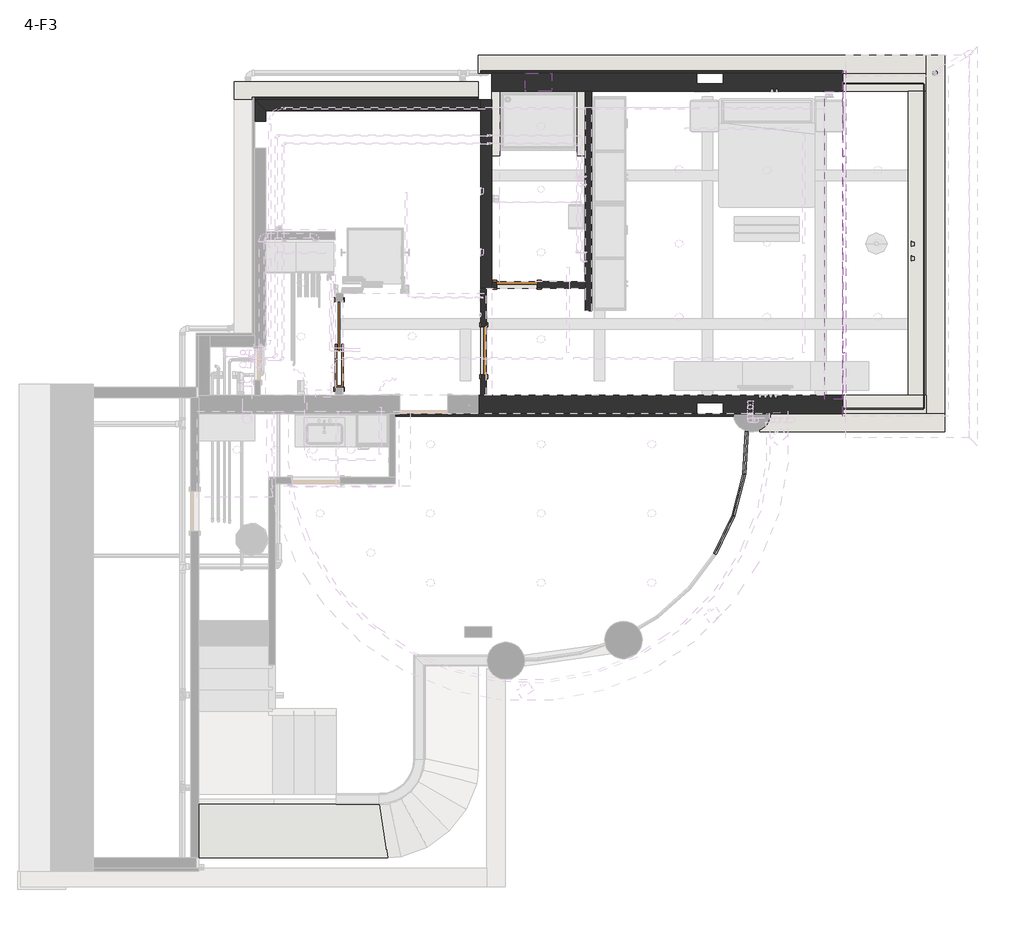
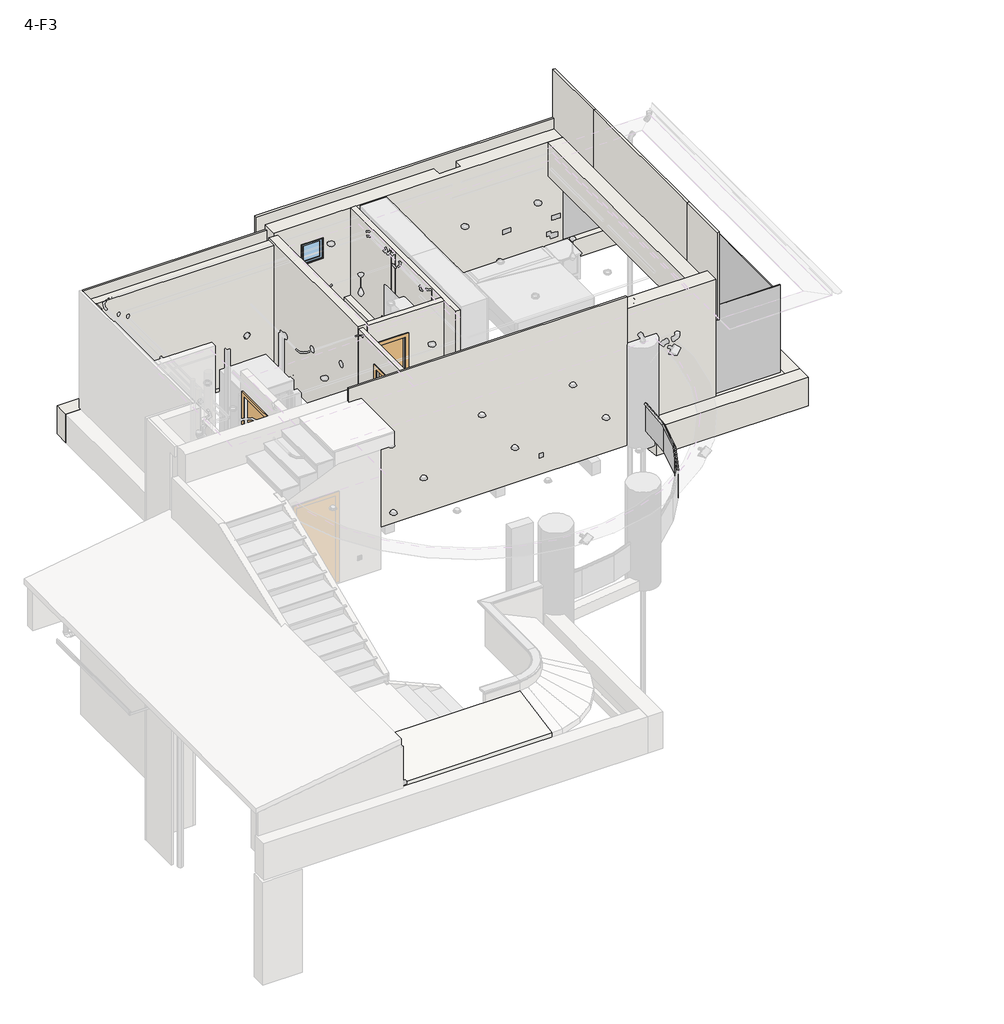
# One storey, part 2 of 11: 25 walls, 6 plates, 3 doors, 3 members, 1 roof, 1 window.
"""IFC4 building model written with IfcOpenShell, lengths in millimetres."""

from ifc_helpers import new_model, si_unit, frame, origin, place, context, project, spatial, polyline, circle_curve, outline, extrude, faceted_brep, transform, mapped, element, save
from ifc_brep_helpers import plane_surface, revolved_surface, advanced_brep
from components import m_single_flush_0800x_2400_dba3e867, m_single_flush_0900_x_2400mm_0b92c57d, sliding_in_door_200x225cm_afe6ee02, circular_mullion_25mm_radius_00b6462a, circular_mullion_25mm_radius_b3aa5af7, system_panel_glazed_32e3a640, system_panel_glazed_cc563820, system_panel_glazed_93393d4e, system_panel_glazed_2966d5fb, system_panel_glazed_078a3d84, m_fixed_0_5x0_5_7bd07c47

model = new_model("IFC4")

# Units and contexts
model_context = context("Model", 3, world=origin())
ifc_project = project(units=[si_unit("LENGTHUNIT", "METRE", prefix="MILLI")], contexts=[model_context])

# Site, building, storey
site = spatial("IfcSite", under=ifc_project)
building = spatial("IfcBuilding", under=site)
storey = spatial("IfcBuildingStorey", under=building, Name="4-F3", Elevation=9900.0)

# Doors
placement = place(None, origin())
m_single_flush_0800x_2400_shape = m_single_flush_0800x_2400_dba3e867(model_context)
element("IfcDoor", 1, ObjectType="M_Single-Flush : 0800x 2400", at=placement, inside=storey, context=model_context, shape_type="MappedRepresentation", body=[
    mapped(m_single_flush_0800x_2400_shape, transform((-152.4765921, 5239.8354313, 9950.0), x_axis=(-1.0, 0.0, 0.0), y_axis=(0.0, -1.0, 0.0), z_axis=(0.0, 0.0, 1.0))),
])
m_single_flush_0900_x_2400mm_shape = m_single_flush_0900_x_2400mm_0b92c57d(model_context)
element("IfcDoor", 2, ObjectType="M_Single-Flush : 0900 x 2400mm", at=placement, inside=storey, context=model_context, shape_type="MappedRepresentation", body=[
    mapped(m_single_flush_0900_x_2400mm_shape, transform((-777.4765921, 4004.4560655, 9950.0), x_axis=(0.0, -1.0, 0.0), y_axis=(1.0, 0.0, 0.0), z_axis=(0.0, 0.0, 1.0))),
])
sliding_in_door_200x225cm_shape = sliding_in_door_200x225cm_afe6ee02(model_context)
element("IfcDoor", 3, ObjectType="Sliding in Door : 200x225cm", at=placement, inside=storey, context=model_context, shape_type="MappedRepresentation", body=[
    mapped(sliding_in_door_200x225cm_shape, transform((-3482.4765921, 4124.4560655, 9900.0), x_axis=(0.0, 1.0, 0.0), y_axis=(-1.0, 0.0, 0.0), z_axis=(0.0, 0.0, 1.0))),
])

# Members
circular_mullion_25mm_radius_shape = circular_mullion_25mm_radius_00b6462a(model_context)
element("IfcMember", 4, ObjectType="Circular Mullion : 25mm Radius", at=placement, inside=storey, context=model_context, shape_type="MappedRepresentation", body=[
    mapped(circular_mullion_25mm_radius_shape, transform((3552.5617588, 200.8336317, 11010.0), x_axis=(0.0, 0.0, 1.0), y_axis=(-0.9008991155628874, 0.43402855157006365, 0.0), z_axis=(-0.43402855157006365, -0.9008991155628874, 0.0))),
])
element("IfcMember", 5, ObjectType="Circular Mullion : 25mm Radius", at=placement, inside=storey, context=model_context, shape_type="MappedRepresentation", body=[
    mapped(circular_mullion_25mm_radius_shape, transform((3899.7846001, 921.5529242, 11010.0), x_axis=(0.0, 0.0, 1.0), y_axis=(-0.9679183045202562, 0.2512651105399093, 0.0), z_axis=(-0.25126511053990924, -0.9679183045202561, 0.0))),
])
circular_mullion_25mm_radius_2_shape = circular_mullion_25mm_radius_b3aa5af7(model_context)
element("IfcMember", 6, ObjectType="Circular Mullion : 25mm Radius", at=placement, inside=storey, context=model_context, shape_type="MappedRepresentation", body=[
    mapped(circular_mullion_25mm_radius_2_shape, transform((4100.7966885, 1695.8875678, 11010.0), x_axis=(0.0, 0.0, 1.0), y_axis=(-0.9982591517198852, 0.05898021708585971, 0.0), z_axis=(-0.05898021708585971, -0.9982591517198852, 0.0))),
])

# Plates
system_panel_glazed_shape = system_panel_glazed_32e3a640(model_context)
element("IfcPlate", 7, ObjectType="System Panel : Glazed", at=placement, inside=storey, context=model_context, shape_type="MappedRepresentation", body=[
    mapped(system_panel_glazed_shape, transform((4124.3887755, 2095.1912305, 10330.0), x_axis=(-0.05898021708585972, -0.9982591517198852, 0.0), y_axis=(0.9982591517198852, -0.05898021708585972, 0.0), z_axis=(0.0, 0.0, 1.0))),
])
system_panel_glazed_2_shape = system_panel_glazed_cc563820(model_context)
element("IfcPlate", 8, ObjectType="System Panel : Glazed", at=placement, inside=storey, context=model_context, shape_type="MappedRepresentation", body=[
    mapped(system_panel_glazed_2_shape, transform((4000.2906443, 1308.720246, 10330.0), x_axis=(-0.251265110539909, -0.9679183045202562, 0.0), y_axis=(0.9679183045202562, -0.251265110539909, 0.0), z_axis=(0.0, 0.0, 1.0))),
])
element("IfcPlate", 9, ObjectType="System Panel : Glazed", at=placement, inside=storey, context=model_context, shape_type="MappedRepresentation", body=[
    mapped(system_panel_glazed_2_shape, transform((3726.1731795, 561.1932779, 10330.0), x_axis=(-0.43402855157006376, -0.9008991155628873, 0.0), y_axis=(0.9008991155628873, -0.43402855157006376, 0.0), z_axis=(0.0, 0.0, 1.0))),
])
system_panel_glazed_3_shape = system_panel_glazed_93393d4e(model_context)
element("IfcPlate", 10, ObjectType="System Panel : Glazed", at=placement, inside=storey, context=model_context, shape_type="MappedRepresentation", body=[
    mapped(system_panel_glazed_3_shape, transform((7455.5234079, 5965.2764926, 10330.0), x_axis=(0.0, -1.0, 0.0), y_axis=(1.0, 0.0, 0.0), z_axis=(0.0, 0.0, 1.0))),
])
system_panel_glazed_4_shape = system_panel_glazed_2966d5fb(model_context)
element("IfcPlate", 11, ObjectType="System Panel : Glazed", at=placement, inside=storey, context=model_context, shape_type="MappedRepresentation", body=[
    mapped(system_panel_glazed_4_shape, transform((6705.5234079, 9000.0, 10330.0), x_axis=(1.0, 0.0, 0.0), y_axis=(0.0, 1.0, 0.0), z_axis=(0.0, 0.0, 1.0))),
])
system_panel_glazed_5_shape = system_panel_glazed_078a3d84(model_context)
element("IfcPlate", 12, ObjectType="System Panel : Glazed", at=placement, inside=storey, context=model_context, shape_type="MappedRepresentation", body=[
    mapped(system_panel_glazed_5_shape, transform((6705.5234079, 2930.5529852, 10330.0), x_axis=(-1.0, 0.0, 0.0), y_axis=(0.0, -1.0, 0.0), z_axis=(0.0, 0.0, 1.0))),
])

# Roof
element("IfcRoof", 13, ObjectType="Generic - 125mm", at=placement, inside=storey, context=model_context, shape_type="Brep", body=[
    faceted_brep([(-6157.4765921, -4485.2669739, 10588.7992354), (-2724.0785276, -4485.2669739, 10588.7992354), (-2574.7606331, -5479.8876439, 10125.0), (-6157.4765921, -5479.8876439, 10125.0), (-2724.0785276, -4485.2669739, 10726.7214753), (-6157.4765921, -4485.2669739, 10726.7214753), (-6157.4765921, -5479.8876439, 10262.9222399), (-2574.7606331, -5479.8876439, 10262.9222399)], [[[0, 1, 2, 3]], [[4, 5, 6, 7]], [[2, 7, 6, 3]], [[5, 4, 1, 0]], [[6, 5, 0, 3]], [[4, 7, 2, 1]]]),
])

# Walls
element("IfcWall", 14, ObjectType="34cm", at=placement, inside=storey, context=model_context, shape_type="Brep", body=[
    faceted_brep([(-627.4765921, 8861.6620874, 9900.0), (-477.4765921, 8861.6620874, 9900.0), (972.5234079, 8861.6620874, 9900.0), (1122.5234079, 8861.6620874, 9900.0), (5947.8774898, 8861.6620874, 9900.0), (5947.8774898, 8861.6620874, 12100.0), (5947.8774898, 8861.6620874, 12900.0), (5607.8774898, 8861.6620874, 12900.0), (-627.4765921, 8861.6620874, 12900.0), (-627.4765921, 8861.6620874, 10800.0), (497.5234079, 8861.6620874, 12400.0), (497.5234079, 8861.6620874, 11900.0), (-2.4765921, 8861.6620874, 11900.0), (-2.4765921, 8861.6620874, 12400.0), (3382.5234079, 8861.6620874, 10670.0), (3382.5234079, 8861.6620874, 10730.0), (3442.5234079, 8861.6620874, 10730.0), (3442.5234079, 8861.6620874, 10670.0), (3282.5234079, 8861.6620874, 10670.0), (3282.5234079, 8861.6620874, 10730.0), (3342.5234079, 8861.6620874, 10730.0), (3342.5234079, 8861.6620874, 10670.0), (5592.87749, 8861.6620874, 10670.0), (5592.87749, 8861.6620874, 10730.0), (5652.87749, 8861.6620874, 10730.0), (5652.87749, 8861.6620874, 10670.0), (3182.5234079, 8861.6620874, 10670.0), (3182.5234079, 8861.6620874, 10730.0), (3242.5234079, 8861.6620874, 10730.0), (3242.5234079, 8861.6620874, 10670.0), (4597.87749, 8861.6620874, 10320.0), (4597.87749, 8861.6620874, 10380.0), (4657.87749, 8861.6620874, 10380.0), (4657.87749, 8861.6620874, 10320.0), (4592.5234079, 8861.6620874, 11070.0), (4592.5234079, 8861.6620874, 11130.0), (4652.5234079, 8861.6620874, 11130.0), (4652.5234079, 8861.6620874, 11070.0), (4677.87749, 8861.6620874, 11070.0), (4677.87749, 8861.6620874, 11130.0), (4737.87749, 8861.6620874, 11130.0), (4737.87749, 8861.6620874, 11070.0), (4682.87749, 8861.6620874, 10320.0), (4682.87749, 8861.6620874, 10380.0), (4742.87749, 8861.6620874, 10380.0), (4742.87749, 8861.6620874, 10320.0), (5708.0158093, 8861.6620874, 11020.0), (5708.0158093, 8861.6620874, 11080.0), (5768.0158093, 8861.6620874, 11080.0), (5768.0158093, 8861.6620874, 11020.0), (5808.0158093, 8861.6620874, 11020.0), (5808.0158093, 8861.6620874, 11080.0), (5868.0158093, 8861.6620874, 11080.0), (5868.0158093, 8861.6620874, 11020.0), (-627.4765921, 9201.6620874, 9900.0), (-627.4765921, 9201.6620874, 12900.0), (3212.5234079, 9201.6620874, 12900.0), (3212.5234079, 9201.6620874, 9950.0), (3212.5234079, 9201.6620874, 9900.0), (497.5234079, 9201.6620874, 11900.0), (497.5234079, 9201.6620874, 12400.0), (-2.4765921, 9201.6620874, 12400.0), (-2.4765921, 9201.6620874, 11900.0), (5947.8774898, 9201.6620874, 12900.0), (5947.8774898, 9201.6620874, 10330.0), (5947.8774898, 9201.6620874, 9900.0), (3712.5234079, 9201.6620874, 9900.0), (3712.5234079, 9201.6620874, 9950.0), (3712.5234079, 9201.6620874, 12900.0), (3212.5234079, 9001.6620874, 9900.0), (3712.5234079, 9001.6620874, 9900.0), (3712.5234079, 9001.6620874, 9950.0), (3712.5234079, 9001.6620874, 12900.0), (3212.5234079, 9001.6620874, 9950.0), (3212.5234079, 9001.6620874, 12900.0), (3382.5234079, 8911.6620874, 10670.0), (3442.5234079, 8911.6620874, 10670.0), (3442.5234079, 8911.6620874, 10730.0), (3382.5234079, 8911.6620874, 10730.0), (3282.5234079, 8911.6620874, 10670.0), (3342.5234079, 8911.6620874, 10670.0), (3342.5234079, 8911.6620874, 10730.0), (3282.5234079, 8911.6620874, 10730.0), (5592.87749, 8911.6620874, 10670.0), (5652.87749, 8911.6620874, 10670.0), (5652.87749, 8911.6620874, 10730.0), (5592.87749, 8911.6620874, 10730.0), (3182.5234079, 8911.6620874, 10670.0), (3242.5234079, 8911.6620874, 10670.0), (3242.5234079, 8911.6620874, 10730.0), (3182.5234079, 8911.6620874, 10730.0), (4597.87749, 8911.6620874, 10320.0), (4657.87749, 8911.6620874, 10320.0), (4657.87749, 8911.6620874, 10380.0), (4597.87749, 8911.6620874, 10380.0), (4592.5234079, 8911.6620874, 11070.0), (4652.5234079, 8911.6620874, 11070.0), (4652.5234079, 8911.6620874, 11130.0), (4592.5234079, 8911.6620874, 11130.0), (4677.87749, 8911.6620874, 11070.0), (4737.87749, 8911.6620874, 11070.0), (4737.87749, 8911.6620874, 11130.0), (4677.87749, 8911.6620874, 11130.0), (4682.87749, 8911.6620874, 10320.0), (4742.87749, 8911.6620874, 10320.0), (4742.87749, 8911.6620874, 10380.0), (4682.87749, 8911.6620874, 10380.0), (5708.0158093, 8911.6620874, 11020.0), (5768.0158093, 8911.6620874, 11020.0), (5768.0158093, 8911.6620874, 11080.0), (5708.0158093, 8911.6620874, 11080.0), (5808.0158093, 8911.6620874, 11020.0), (5868.0158093, 8911.6620874, 11020.0), (5868.0158093, 8911.6620874, 11080.0), (5808.0158093, 8911.6620874, 11080.0)], [[[0, 1, 2, 3, 4, 5, 6, 7, 8, 9], [10, 11, 12, 13], [14, 15, 16, 17], [18, 19, 20, 21], [22, 23, 24, 25], [26, 27, 28, 29], [30, 31, 32, 33], [34, 35, 36, 37], [38, 39, 40, 41], [42, 43, 44, 45], [46, 47, 48, 49], [50, 51, 52, 53]], [[54, 55, 56, 57, 58], [59, 60, 61, 62]], [[63, 64, 65, 66, 67, 68]], [[4, 3, 2, 1, 0, 54, 58, 69, 70, 66, 65]], [[70, 71, 72, 68, 67, 66]], [[72, 71, 70, 69, 73, 74]], [[74, 73, 69, 58, 57, 56]], [[8, 7, 6, 63, 68, 72, 74, 56, 55]], [[63, 6, 5, 4, 65, 64]], [[0, 9, 8, 55, 54]], [[60, 59, 11, 10]], [[61, 60, 10, 13]], [[62, 61, 13, 12]], [[59, 62, 12, 11]], [[75, 76, 77, 78]], [[75, 78, 15, 14]], [[78, 77, 16, 15]], [[77, 76, 17, 16]], [[76, 75, 14, 17]], [[79, 80, 81, 82]], [[79, 82, 19, 18]], [[82, 81, 20, 19]], [[81, 80, 21, 20]], [[80, 79, 18, 21]], [[83, 84, 85, 86]], [[83, 86, 23, 22]], [[86, 85, 24, 23]], [[85, 84, 25, 24]], [[84, 83, 22, 25]], [[87, 88, 89, 90]], [[87, 90, 27, 26]], [[90, 89, 28, 27]], [[89, 88, 29, 28]], [[88, 87, 26, 29]], [[91, 92, 93, 94]], [[91, 94, 31, 30]], [[94, 93, 32, 31]], [[93, 92, 33, 32]], [[92, 91, 30, 33]], [[95, 96, 97, 98]], [[95, 98, 35, 34]], [[98, 97, 36, 35]], [[97, 96, 37, 36]], [[96, 95, 34, 37]], [[99, 100, 101, 102]], [[99, 102, 39, 38]], [[102, 101, 40, 39]], [[101, 100, 41, 40]], [[100, 99, 38, 41]], [[103, 104, 105, 106]], [[103, 106, 43, 42]], [[106, 105, 44, 43]], [[105, 104, 45, 44]], [[104, 103, 42, 45]], [[107, 108, 109, 110]], [[107, 110, 47, 46]], [[110, 109, 48, 47]], [[109, 108, 49, 48]], [[108, 107, 46, 49]], [[111, 112, 113, 114]], [[111, 114, 51, 50]], [[114, 113, 52, 51]], [[113, 112, 53, 52]], [[112, 111, 50, 53]]]),
])
element("IfcWall", 15, ObjectType="34cm", at=placement, inside=storey, context=model_context, shape_type="Brep", body=[
    faceted_brep([(5947.8774898, 3170.6486583, 9900.0), (-867.4765921, 3170.6486583, 9900.0), (-867.4765921, 3170.6486583, 13150.0), (5947.8774898, 3170.6486583, 13150.0), (4722.5234079, 3170.6486583, 11070.0), (4722.5234079, 3170.6486583, 11130.0), (4662.5234079, 3170.6486583, 11130.0), (4662.5234079, 3170.6486583, 11070.0), (4628.1215014, 3170.6486583, 11070.0), (4628.1215014, 3170.6486583, 11130.0), (4568.1215014, 3170.6486583, 11130.0), (4568.1215014, 3170.6486583, 11070.0), (4528.1215014, 3170.6486583, 11070.0), (4528.1215014, 3170.6486583, 11130.0), (4468.1215014, 3170.6486583, 11130.0), (4468.1215014, 3170.6486583, 11070.0), (4428.1215014, 3170.6486583, 11070.0), (4428.1215014, 3170.6486583, 11130.0), (4368.1215014, 3170.6486583, 11130.0), (4368.1215014, 3170.6486583, 11070.0), (1376.1734079, 3170.6486583, 10320.0), (1376.1734079, 3170.6486583, 10380.0), (1316.1734079, 3170.6486583, 10380.0), (1316.1734079, 3170.6486583, 10320.0), (-867.4765921, 2830.6486583, 13150.0), (-867.4765921, 2830.6486583, 9900.0), (3212.5234079, 2830.6486583, 9900.0), (3212.5234079, 2830.6486583, 13150.0), (5947.8774898, 2830.6486583, 9900.0), (5947.8774898, 2830.6486583, 13150.0), (3712.5234079, 2830.6486583, 13150.0), (3712.5234079, 2830.6486583, 9900.0), (3898.1215014, 2830.6486583, 9900.0), (4722.5234079, 3120.6486583, 11070.0), (4662.5234079, 3120.6486583, 11070.0), (4662.5234079, 3120.6486583, 11130.0), (4722.5234079, 3120.6486583, 11130.0), (4628.1215014, 3120.6486583, 11070.0), (4568.1215014, 3120.6486583, 11070.0), (4568.1215014, 3120.6486583, 11130.0), (4628.1215014, 3120.6486583, 11130.0), (4528.1215014, 3120.6486583, 11070.0), (4468.1215014, 3120.6486583, 11070.0), (4468.1215014, 3120.6486583, 11130.0), (4528.1215014, 3120.6486583, 11130.0), (4428.1215014, 3120.6486583, 11070.0), (4368.1215014, 3120.6486583, 11070.0), (4368.1215014, 3120.6486583, 11130.0), (4428.1215014, 3120.6486583, 11130.0), (1376.1734079, 3120.6486583, 10320.0), (1316.1734079, 3120.6486583, 10320.0), (1316.1734079, 3120.6486583, 10380.0), (1376.1734079, 3120.6486583, 10380.0), (3712.5234079, 3030.6486583, 9900.0), (3212.5234079, 3030.6486583, 9900.0), (3212.5234079, 2950.6486583, 13150.0), (3212.5234079, 3030.6486583, 13150.0), (3712.5234079, 3030.6486583, 13150.0), (3712.5234079, 2950.6486583, 13150.0), (3712.5234079, 3030.6486583, 12900.0), (3212.5234079, 3030.6486583, 12900.0)], [[[0, 1, 2, 3], [4, 5, 6, 7], [8, 9, 10, 11], [12, 13, 14, 15], [16, 17, 18, 19], [20, 21, 22, 23]], [[24, 25, 26, 27]], [[28, 29, 30, 31, 32]], [[33, 34, 35, 36]], [[33, 36, 5, 4]], [[36, 35, 6, 5]], [[35, 34, 7, 6]], [[34, 33, 4, 7]], [[37, 38, 39, 40]], [[37, 40, 9, 8]], [[40, 39, 10, 9]], [[39, 38, 11, 10]], [[38, 37, 8, 11]], [[41, 42, 43, 44]], [[41, 44, 13, 12]], [[44, 43, 14, 13]], [[43, 42, 15, 14]], [[42, 41, 12, 15]], [[45, 46, 47, 48]], [[45, 48, 17, 16]], [[48, 47, 18, 17]], [[47, 46, 19, 18]], [[46, 45, 16, 19]], [[49, 50, 51, 52]], [[49, 52, 21, 20]], [[52, 51, 22, 21]], [[51, 50, 23, 22]], [[50, 49, 20, 23]], [[1, 0, 28, 32, 31, 53, 54, 26, 25]], [[2, 1, 25, 24]], [[3, 2, 24, 27, 55, 56, 57, 58, 30, 29]], [[0, 3, 29, 28]], [[57, 59, 53, 31, 30, 58]], [[54, 60, 56, 55, 27, 26]], [[56, 60, 54, 53, 59, 57]]]),
])
element("IfcWall", 16, ObjectType="34cm", at=placement, inside=storey, context=model_context, shape_type="SweptSolid", body=[
    extrude(outline(polyline([(5607.8774898, 3096.4863231), (5607.8774898, 8861.6620874), (5947.8774898, 8861.6620874), (5947.8774898, 3096.4863231), (5607.8774898, 3096.4863231)])), frame((0.0, 0.0, 12100.0), z_axis=(0.0, 0.0, 1.0), x_axis=(1.0, 0.0, 0.0)), (0.0, 0.0, 1.0), 800.0),
])
element("IfcWall", 17, ObjectType="34cm", at=placement, inside=storey, context=model_context, shape_type="Brep", body=[
    faceted_brep([(7512.5234079, 3170.6486583, 9900.0), (7172.5234079, 3170.6486583, 9900.0), (5592.5234079, 3170.6486583, 9900.0), (5592.5234079, 3170.6486583, 10330.0), (7172.5234079, 3170.6486583, 10330.0), (7512.5234079, 3170.6486583, 10330.0), (7512.5234079, 2830.6486583, 9900.0), (7512.5234079, 2830.6486583, 10330.0), (5592.5234079, 2830.6486583, 10330.0), (5592.5234079, 2830.6486583, 9900.0)], [[[0, 1, 2, 3, 4, 5]], [[6, 7, 8, 9]], [[2, 1, 0, 6, 9]], [[3, 2, 9, 8]], [[5, 4, 3, 8, 7]], [[0, 5, 7, 6]]]),
])
element("IfcWall", 18, ObjectType="34cm", at=placement, inside=storey, context=model_context, shape_type="Brep", body=[
    faceted_brep([(5947.8774898, 8861.6620874, 9900.0), (7172.5234079, 8861.6620874, 9900.0), (7512.5234079, 8861.6620874, 9900.0), (7512.5234079, 8861.6620874, 10330.0), (7172.5234079, 8861.6620874, 10330.0), (5947.8774898, 8861.6620874, 10330.0), (5947.8774898, 9201.6620874, 9900.0), (5947.8774898, 9201.6620874, 10330.0), (7512.5234079, 9201.6620874, 10330.0), (7512.5234079, 9201.6620874, 9900.0)], [[[0, 1, 2, 3, 4, 5]], [[6, 7, 8, 9]], [[2, 1, 0, 6, 9]], [[5, 4, 3, 8, 7]], [[0, 5, 7, 6]], [[3, 2, 9, 8]]]),
])
element("IfcWall", 19, ObjectType="34cm", at=placement, inside=storey, context=model_context, shape_type="SweptSolid", body=[
    extrude(outline(polyline([(7172.5234079, 3170.6486583), (7172.5234079, 8861.6620874), (7512.5234079, 8861.6620874), (7512.5234079, 3170.6486583), (7172.5234079, 3170.6486583)])), frame((0.0, 0.0, 9900.0), z_axis=(0.0, 0.0, 1.0), x_axis=(1.0, 0.0, 0.0)), (0.0, 0.0, 1.0), 430.0),
])
element("IfcWall", 20, ObjectType="Generic - 200mm", at=placement, inside=storey, context=model_context, shape_type="AdvancedBrep", body=[
    advanced_brep(
    [(-827.4765921, 8701.6620874, 9900.0), (-5057.4765921, 8701.6620874, 9900.0), (-5057.4765921, 8701.6620874, 12900.0), (-827.4765921, 8701.6620874, 12900.0), (-4857.4765921, 8501.6620874, 9900.0), (-827.4765921, 8501.6620874, 9900.0), (-827.4765921, 8501.6620874, 12900.0), (-4857.4765921, 8501.6620874, 12900.0), (-1387.4765921, 8501.6620874, 10944.7368421), (-1497.4765921, 8501.6620874, 10944.7368421), (-1497.4765921, 8539.7620874, 10944.7368421), (-1387.4765921, 8539.7620874, 10944.7368421)],
    [
        (0, 1),
        (1, 2),
        (2, 3),
        (3, 0),
        (4, 5),
        (5, 6),
        (6, 7),
        (7, 4),
        (8, 9, circle_curve(frame((-1442.4765921, 8501.6620874, 10944.7368421), z_axis=(0.0, 1.0, 0.0), x_axis=(1.0, 0.0, 0.0)), 55.0)),
        (9, 8, circle_curve(frame((-1442.4765921, 8501.6620874, 10944.7368421), z_axis=(0.0, 1.0, 0.0), x_axis=(1.0, 0.0, 0.0)), 55.0)),
        (0, 5),
        (4, 1),
        (7, 2),
        (6, 3),
        (10, 11, circle_curve(frame((-1442.4765921, 8539.7620874, 10944.7368421), z_axis=(0.0, -1.0, 0.0), x_axis=(1.0, 0.0, 0.0)), 55.0)),
        (11, 10, circle_curve(frame((-1442.4765921, 8539.7620874, 10944.7368421), z_axis=(0.0, -1.0, 0.0), x_axis=(1.0, 0.0, 0.0)), 55.0)),
        (10, 9),
        (8, 11),
    ],
    [
        plane_surface(frame((-262.1225101, 8701.6620874, 9900.0), z_axis=(0.0, 1.0, 0.0), x_axis=(-1.0, 0.0, 0.0))),
        plane_surface(frame((-262.1225101, 8501.6620874, 9900.0), z_axis=(0.0, -1.0, 0.0), x_axis=(1.0, 0.0, 0.0))),
        plane_surface(frame((-727.4765921, 8701.6620874, 9900.0), z_axis=(0.0, 0.0, -1.0), x_axis=(0.0, -1.0, 0.0))),
        plane_surface(frame((-5057.4765921, 8701.6620874, 9900.0), z_axis=(-0.7071067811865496, -0.7071067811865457, 0.0), x_axis=(0.7071067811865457, -0.7071067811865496, 0.0))),
        plane_surface(frame((-5057.4765921, 8301.6620874, 12900.0), z_axis=(0.0, 0.0, 1.0), x_axis=(0.0, 1.0, 0.0))),
        plane_surface(frame((-1387.4765921, 8539.7620874, 10944.7368421), z_axis=(0.0, -1.0, 0.0), x_axis=(0.0, 0.0, -1.0))),
        revolved_surface(polyline([(-1387.4765921, 8501.6620874, 10944.7368421), (-1387.4765921, 8539.7620874, 10944.7368421)]), (-1442.4765921, 8539.7620874, 10944.7368421), (0.0, -1.0, 0.0)),
        plane_surface(frame((-827.4765921, 8101.6620874, 9900.0), z_axis=(1.0, 0.0, 0.0), x_axis=(0.0, -1.0, 0.0))),
    ],
    [
        (0, [[1, 2, 3, 4]]),
        (1, [[5, 6, 7, 8], [9, 10]]),
        (2, [[-1, 11, -5, 12]]),
        (3, [[-2, -12, -8, 13]]),
        (4, [[-3, -13, -7, 14]]),
        (5, [[15, 16]]),
        (6, [[-15, 17, -9, 18]]),
        (6, [[-16, -18, -10, -17]]),
        (7, [[-4, -14, -6, -11]]),
    ],
),
])
element("IfcWall", 21, ObjectType="Generic - 200mm", at=placement, inside=storey, context=model_context, shape_type="SweptSolid", body=[
    extrude(outline(polyline([(-5057.4765921, 8301.6620874), (-5057.4765921, 8701.6620874), (-4857.4765921, 8501.6620874), (-4857.4765921, 8301.6620874), (-5057.4765921, 8301.6620874)])), frame((0.0, 0.0, 9900.0), z_axis=(0.0, 0.0, 1.0), x_axis=(1.0, 0.0, 0.0)), (0.0, 0.0, 1.0), 3000.0),
])
element("IfcWall", 22, ObjectType="Generic - 200mm", at=placement, inside=storey, context=model_context, shape_type="Brep", body=[
    faceted_brep([(-827.4765921, 8701.6620874, 9900.0), (-827.4765921, 8501.6620874, 9900.0), (-827.4765921, 5179.8354313, 9900.0), (-827.4765921, 5179.8354313, 12900.0), (-827.4765921, 5179.8354313, 12950.0), (-827.4765921, 8701.6620874, 12950.0), (-827.4765921, 8701.6620874, 12900.0), (-627.4765921, 8701.6620874, 9900.0), (-627.4765921, 8701.6620874, 12950.0), (-627.4765921, 5179.8354313, 12950.0), (-627.4765921, 5179.8354313, 12900.0), (-627.4765921, 5179.8354313, 9900.0), (-627.4765921, 5299.8354313, 9900.0), (-727.4765921, 5179.8354313, 9900.0)], [[[0, 1, 2, 3, 4, 5, 6]], [[7, 8, 9, 10, 11, 12]], [[2, 1, 0, 7, 12, 11, 13]], [[5, 4, 9, 8]], [[0, 6, 5, 8, 7]], [[4, 3, 2, 13, 11, 10, 9]]]),
])
element("IfcWall", 23, ObjectType="Generic -10", at=placement, inside=storey, context=model_context, shape_type="Brep", body=[
    faceted_brep([(-827.4765921, 5179.8354313, 9900.0), (-827.4765921, 3170.6486583, 9900.0), (-827.4765921, 3170.6486583, 12900.0), (-827.4765921, 5179.8354313, 12900.0), (-827.4765921, 3554.4560655, 9950.0), (-827.4765921, 4454.4560655, 9950.0), (-827.4765921, 4454.4560655, 12375.0), (-827.4765921, 3554.4560655, 12375.0), (-727.4765921, 3170.6486583, 9900.0), (-727.4765921, 5179.8354313, 9900.0), (-727.4765921, 5179.8354313, 12900.0), (-727.4765921, 3170.6486583, 12900.0), (-727.4765921, 4499.8354313, 11080.0), (-727.4765921, 4499.8354313, 11020.0), (-727.4765921, 4454.4560655, 11020.0), (-727.4765921, 4454.4560655, 9950.0), (-727.4765921, 3554.4560655, 9950.0), (-727.4765921, 3554.4560655, 12375.0), (-727.4765921, 4454.4560655, 12375.0), (-727.4765921, 4454.4560655, 11080.0), (-727.4765921, 4509.8354313, 11020.0), (-727.4765921, 4509.8354313, 11080.0), (-727.4765921, 4569.8354313, 11080.0), (-727.4765921, 4569.8354313, 11020.0), (-777.4765921, 4499.8354313, 11020.0), (-777.4765921, 4499.8354313, 11080.0), (-777.4765921, 4454.4560655, 11080.0), (-777.4765921, 4454.4560655, 11020.0), (-777.4765921, 4509.8354313, 11020.0), (-777.4765921, 4569.8354313, 11020.0), (-777.4765921, 4569.8354313, 11080.0), (-777.4765921, 4509.8354313, 11080.0)], [[[0, 1, 2, 3], [4, 5, 6, 7]], [[8, 9, 10, 11], [12, 13, 14, 15, 16, 17, 18, 19], [20, 21, 22, 23]], [[1, 0, 9, 8]], [[2, 1, 8, 11]], [[3, 2, 11, 10]], [[24, 25, 26, 27]], [[25, 12, 19, 26]], [[25, 24, 13, 12]], [[13, 24, 27, 14]], [[28, 29, 30, 31]], [[28, 31, 21, 20]], [[31, 30, 22, 21]], [[30, 29, 23, 22]], [[29, 28, 20, 23]], [[15, 5, 4, 16]], [[16, 4, 7, 17]], [[17, 7, 6, 18]], [[5, 15, 14, 27, 26, 19, 18, 6]], [[0, 3, 10, 9]]]),
])
element("IfcWall", 24, ObjectType="Generic -120mm", at=placement, inside=storey, context=model_context, shape_type="Brep", body=[
    faceted_brep([(-627.4765921, 5179.8354313, 9900.0), (1122.5234079, 5179.8354313, 9900.0), (1122.5234079, 5179.8354313, 12900.0), (-627.4765921, 5179.8354313, 12900.0), (222.5234079, 5179.8354313, 9950.0), (-527.4765921, 5179.8354313, 9950.0), (-527.4765921, 5179.8354313, 12350.0), (222.5234079, 5179.8354313, 12350.0), (1122.5234079, 5299.8354313, 9900.0), (-627.4765921, 5299.8354313, 9900.0), (-627.4765921, 5299.8354313, 12900.0), (1122.5234079, 5299.8354313, 12900.0), (382.5234079, 5299.8354313, 11020.0), (382.5234079, 5299.8354313, 11080.0), (322.5234079, 5299.8354313, 11080.0), (322.5234079, 5299.8354313, 11020.0), (-527.4765921, 5299.8354313, 9950.0), (222.5234079, 5299.8354313, 9950.0), (222.5234079, 5299.8354313, 12350.0), (-527.4765921, 5299.8354313, 12350.0), (382.5234079, 5249.8354313, 11020.0), (322.5234079, 5249.8354313, 11020.0), (322.5234079, 5249.8354313, 11080.0), (382.5234079, 5249.8354313, 11080.0)], [[[0, 1, 2, 3], [4, 5, 6, 7]], [[8, 9, 10, 11], [12, 13, 14, 15], [16, 17, 18, 19]], [[1, 0, 9, 8]], [[3, 2, 11, 10]], [[2, 1, 8, 11]], [[20, 21, 22, 23]], [[20, 23, 13, 12]], [[23, 22, 14, 13]], [[22, 21, 15, 14]], [[21, 20, 12, 15]], [[5, 4, 17, 16]], [[6, 5, 16, 19]], [[7, 6, 19, 18]], [[4, 7, 18, 17]], [[0, 3, 10, 9]]]),
])
element("IfcWall", 25, ObjectType="Generic -120mm", at=placement, inside=storey, context=model_context, shape_type="Brep", body=[
    faceted_brep([(1242.5234079, 4751.6620874, 9900.0), (1242.5234079, 8861.6620874, 9900.0), (1242.5234079, 8861.6620874, 12900.0), (1242.5234079, 4751.6620874, 12900.0), (1122.5234079, 8861.6620874, 9900.0), (1122.5234079, 5299.8354313, 9900.0), (1122.5234079, 5179.8354313, 9900.0), (1122.5234079, 4751.6620874, 9900.0), (1122.5234079, 4751.6620874, 12900.0), (1122.5234079, 5179.8354313, 12900.0), (1122.5234079, 5299.8354313, 12900.0), (1122.5234079, 8861.6620874, 12900.0), (1122.5234079, 5424.0420953, 10972.6), (1122.5234079, 5424.0420953, 11032.6), (1122.5234079, 5364.0420953, 11032.6), (1122.5234079, 5364.0420953, 10972.6), (1122.5234079, 7612.5716599, 10972.6), (1122.5234079, 7612.5716599, 11032.6), (1122.5234079, 7552.5716599, 11032.6), (1122.5234079, 7552.5716599, 10972.6), (1172.5234079, 5424.0420953, 10972.6), (1172.5234079, 5364.0420953, 10972.6), (1172.5234079, 5364.0420953, 11032.6), (1172.5234079, 5424.0420953, 11032.6), (1172.5234079, 7612.5716599, 10972.6), (1172.5234079, 7552.5716599, 10972.6), (1172.5234079, 7552.5716599, 11032.6), (1172.5234079, 7612.5716599, 11032.6)], [[[0, 1, 2, 3]], [[4, 5, 6, 7, 8, 9, 10, 11], [12, 13, 14, 15], [16, 17, 18, 19]], [[1, 0, 7, 6, 5, 4]], [[2, 1, 4, 11]], [[3, 2, 11, 10, 9, 8]], [[0, 3, 8, 7]], [[20, 21, 22, 23]], [[20, 23, 13, 12]], [[23, 22, 14, 13]], [[22, 21, 15, 14]], [[21, 20, 12, 15]], [[24, 25, 26, 27]], [[24, 27, 17, 16]], [[27, 26, 18, 17]], [[26, 25, 19, 18]], [[25, 24, 16, 19]]]),
])
element("IfcWall", 26, ObjectType="Generic -150mm", at=placement, inside=storey, context=model_context, shape_type="SweptSolid", body=[
    extrude(outline(polyline([(-627.4765921, 7661.6620874), (-627.4765921, 8861.6620874), (-477.4765921, 8861.6620874), (-477.4765921, 7661.6620874), (-627.4765921, 7661.6620874)])), frame((0.0, 0.0, 9900.0), z_axis=(0.0, 0.0, 1.0), x_axis=(1.0, 0.0, 0.0)), (0.0, 0.0, 1.0), 900.0),
])
element("IfcWall", 27, ObjectType="Generic -150mm", at=placement, inside=storey, context=model_context, shape_type="SweptSolid", body=[
    extrude(outline(polyline([(972.5234079, 7661.6620874), (972.5234079, 8861.6620874), (1122.5234079, 8861.6620874), (1122.5234079, 7661.6620874), (972.5234079, 7661.6620874)])), frame((0.0, 0.0, 9900.0), z_axis=(0.0, 0.0, 1.0), x_axis=(1.0, 0.0, 0.0)), (0.0, 0.0, 1.0), 900.0),
])
element("IfcWall", 28, ObjectType="Wall1", at=placement, inside=storey, context=model_context, shape_type="Brep", body=[
    faceted_brep([(7512.5234079, 9541.6620874, 9650.0), (7512.5234079, 9201.6620874, 9650.0), (7512.5234079, 2830.6486583, 9650.0), (7512.5234079, 2830.6486583, 9950.0), (7512.5234079, 2830.6486583, 10330.0), (7512.5234079, 9201.6620874, 10330.0), (7512.5234079, 9541.6620874, 10330.0), (7852.5234079, 9541.6620874, 9650.0), (7852.5234079, 9541.6620874, 10330.0), (7852.5234079, 2830.6486583, 10330.0), (7852.5234079, 2830.6486583, 9650.0)], [[[0, 1, 2, 3, 4, 5, 6]], [[7, 8, 9, 10]], [[2, 1, 0, 7, 10]], [[6, 5, 4, 9, 8]], [[0, 6, 8, 7]], [[4, 3, 2, 10, 9]]]),
])
element("IfcWall", 29, ObjectType="Wall1", at=placement, inside=storey, context=model_context, shape_type="AdvancedBrep", body=[
    advanced_brep(
    [(7852.5234079, 2830.6486583, 9650.0), (7512.5234079, 2830.6486583, 9650.0), (4362.8531501, 2830.6486583, 9650.0), (4362.8531501, 2830.6486583, 10330.0), (7512.5234079, 2830.6486583, 10330.0), (7852.5234079, 2830.6486583, 10330.0), (7852.5234079, 2490.6486583, 9650.0), (7852.5234079, 2490.6486583, 10330.0), (4388.286927, 2490.6486583, 10330.0), (4388.286927, 2490.6486583, 9650.0)],
    [
        (0, 1),
        (1, 2),
        (2, 3),
        (3, 4),
        (4, 5),
        (5, 0),
        (6, 7),
        (7, 8),
        (8, 9),
        (9, 6),
        (0, 6),
        (9, 2, circle_curve(frame((41.375057, 2336.428223, 9650.0), z_axis=(0.0, 0.0, 1.0), x_axis=(1.0, 0.0, 0.0)), 4349.6467383)),
        (3, 8, circle_curve(frame((41.375057, 2336.428223, 10330.0), z_axis=(0.0, 0.0, -1.0), x_axis=(1.0, 0.0, 0.0)), 4349.6467383)),
        (7, 5),
    ],
    [
        plane_surface(frame((7795.5234079, 2830.6486583, 9650.0), z_axis=(0.0, 1.0, 0.0), x_axis=(-1.0, 0.0, 0.0))),
        plane_surface(frame((7795.5234079, 2490.6486583, 9650.0), z_axis=(0.0, -1.0, 0.0), x_axis=(1.0, 0.0, 0.0))),
        plane_surface(frame((7682.5234079, 2830.6486583, 9650.0), z_axis=(0.0, 0.0, -1.0), x_axis=(0.0, -1.0, 0.0))),
        plane_surface(frame((4208.4277284, 2830.6486583, 10330.0), z_axis=(0.0, 0.0, 1.0), x_axis=(0.0, -1.0, 0.0))),
        plane_surface(frame((7852.5234079, 8762.5227433, 9650.0), z_axis=(1.0, 0.0, 0.0), x_axis=(0.0, 1.0, 0.0))),
        revolved_surface(polyline([(4391.0217953, 2336.428223, 10330.0), (4391.0217953, 2336.428223, 9650.0)]), (41.375057, 2336.428223, 9450.0), (0.0, 0.0, 1.0)),
    ],
    [
        (0, [[1, 2, 3, 4, 5, 6]]),
        (1, [[7, 8, 9, 10]]),
        (2, [[-2, -1, 11, -10, 12]]),
        (3, [[-5, -4, 13, -8, 14]]),
        (4, [[-6, -14, -7, -11]]),
        (5, [[-3, -12, -9, -13]]),
    ],
),
])
element("IfcWall", 30, ObjectType="Wall1", at=placement, inside=storey, context=model_context, shape_type="Brep", body=[
    faceted_brep([(-5447.4765921, 8701.6620874, 9650.0), (-5107.4765921, 8701.6620874, 9650.0), (-877.4765921, 8701.6620874, 9650.0), (-877.4765921, 8701.6620874, 10330.0), (-5107.4765921, 8701.6620874, 10330.0), (-5447.4765921, 8701.6620874, 10330.0), (-5447.4765921, 9041.6620874, 9650.0), (-5447.4765921, 9041.6620874, 10330.0), (-877.4765921, 9041.6620874, 10330.0), (-877.4765921, 9041.6620874, 9650.0)], [[[0, 1, 2, 3, 4, 5]], [[6, 7, 8, 9]], [[2, 1, 0, 6, 9]], [[5, 4, 3, 8, 7]], [[0, 5, 7, 6]], [[3, 2, 9, 8]]]),
])
element("IfcWall", 31, ObjectType="Wall1", at=placement, inside=storey, context=model_context, shape_type="Brep", body=[
    faceted_brep([(-877.4765921, 9201.6620874, 6980.0), (-227.4765921, 9201.6620874, 6980.0), (-227.4765921, 9201.6620874, 9650.0), (-877.4765921, 9201.6620874, 9650.0), (-877.4765921, 9541.6620874, 6980.0), (-877.4765921, 9541.6620874, 9650.0), (-227.4765921, 9541.6620874, 9650.0), (-227.4765921, 9541.6620874, 6980.0), (-227.4765921, 9251.6620874, 6980.0), (-227.4765921, 9251.6620874, 9650.0)], [[[0, 1, 2, 3]], [[4, 5, 6, 7]], [[1, 0, 4, 7, 8]], [[2, 1, 8, 7, 6, 9]], [[3, 2, 9, 6, 5]], [[0, 3, 5, 4]]]),
])
element("IfcWall", 32, ObjectType="Wall1", at=placement, inside=storey, context=model_context, shape_type="Brep", body=[
    faceted_brep([(-877.4765921, 9201.6620874, 9650.0), (-227.4765921, 9201.6620874, 9650.0), (7512.5234079, 9201.6620874, 9650.0), (7512.5234079, 9201.6620874, 10330.0), (-877.4765921, 9201.6620874, 10330.0), (-877.4765921, 9541.6620874, 9650.0), (-877.4765921, 9541.6620874, 10330.0), (7512.5234079, 9541.6620874, 10330.0), (7512.5234079, 9541.6620874, 9650.0), (-227.4765921, 9541.6620874, 9650.0)], [[[0, 1, 2, 3, 4]], [[5, 6, 7, 8, 9]], [[2, 1, 0, 5, 9, 8]], [[4, 3, 7, 6]], [[0, 4, 6, 5]], [[3, 2, 8, 7]]]),
])
element("IfcWall", 33, ObjectType="exterior stone walls", at=placement, inside=storey, context=model_context, shape_type="Brep", body=[
    faceted_brep([(5947.8774898, 9251.6620874, 14300.0), (5947.8774898, 9251.6620874, 13150.0), (5947.8774898, 9251.6620874, 12190.0), (5947.8774898, 7646.4863231, 12190.0), (5947.8774898, 7646.4863231, 14300.0), (5947.8774898, 9201.6620874, 14300.0), (5997.8774898, 9251.6620874, 12190.0), (5997.8774898, 9251.6620874, 14300.0), (5997.8774898, 7646.4863231, 14300.0), (5997.8774898, 7646.4863231, 12190.0)], [[[0, 1, 2, 3, 4, 5]], [[6, 7, 8, 9]], [[0, 7, 6, 2, 1]], [[3, 2, 6, 9]], [[4, 3, 9, 8]], [[0, 5, 4, 8, 7]]]),
])
element("IfcWall", 34, ObjectType="exterior stone walls", at=placement, inside=storey, context=model_context, shape_type="Brep", body=[
    faceted_brep([(5947.8774898, 9251.6620874, 10330.0), (-827.4765921, 9251.6620874, 10330.0), (-827.4765921, 9251.6620874, 13150.0), (5947.8774898, 9251.6620874, 13150.0), (5947.8774898, 9251.6620874, 12190.0), (497.5234079, 9251.6620874, 11900.0), (497.5234079, 9251.6620874, 12400.0), (-2.4765921, 9251.6620874, 12400.0), (-2.4765921, 9251.6620874, 11900.0), (5947.8774898, 9201.6620874, 10330.0), (5947.8774898, 9201.6620874, 12900.0), (5947.8774898, 9201.6620874, 13150.0), (-827.4765921, 9201.6620874, 13150.0), (-827.4765921, 9201.6620874, 10330.0), (497.5234079, 9201.6620874, 11900.0), (-2.4765921, 9201.6620874, 11900.0), (-2.4765921, 9201.6620874, 12400.0), (497.5234079, 9201.6620874, 12400.0)], [[[0, 1, 2, 3, 4], [5, 6, 7, 8]], [[9, 10, 11, 12, 13], [14, 15, 16, 17]], [[6, 5, 14, 17]], [[7, 6, 17, 16]], [[8, 7, 16, 15]], [[5, 8, 15, 14]], [[1, 0, 9, 13]], [[3, 2, 12, 11]], [[2, 1, 13, 12]], [[0, 4, 3, 11, 10, 9]]]),
])
element("IfcWall", 35, ObjectType="exterior stone walls", at=placement, inside=storey, context=model_context, shape_type="Brep", body=[
    faceted_brep([(5947.8774898, 3966.4863231, 12190.0), (5947.8774898, 2780.6486583, 12190.0), (5947.8774898, 2780.6486583, 14300.0), (5947.8774898, 2830.6486583, 14300.0), (5947.8774898, 3966.4863231, 14300.0), (5997.8774898, 3966.4863231, 12190.0), (5997.8774898, 3966.4863231, 14300.0), (5997.8774898, 2780.6486583, 14300.0), (5997.8774898, 2780.6486583, 12190.0)], [[[0, 1, 2, 3, 4]], [[5, 6, 7, 8]], [[1, 0, 5, 8]], [[4, 3, 2, 7, 6]], [[0, 4, 6, 5]], [[1, 8, 7, 2]]]),
])
element("IfcWall", 36, ObjectType="exterior stone walls", at=placement, inside=storey, context=model_context, shape_type="SweptSolid", body=[
    extrude(outline(polyline([(5947.8774898, 3966.4863231), (5947.8774898, 7646.4863231), (5997.8774898, 7646.4863231), (5997.8774898, 3966.4863231), (5947.8774898, 3966.4863231)])), frame((0.0, 0.0, 12190.0), z_axis=(0.0, 0.0, 1.0), x_axis=(1.0, 0.0, 0.0)), (0.0, 0.0, 1.0), 2110.0),
])
element("IfcWall", 37, ObjectType="exterior stone walls", at=placement, inside=storey, context=model_context, shape_type="Brep", body=[
    faceted_brep([(-2427.4765921, 2780.6486583, 9900.0), (3898.1215014, 2780.6486583, 9900.0), (3898.1215014, 2780.6486583, 13473.1333843), (-2427.4765921, 2780.6486583, 13473.1333843), (1912.5234079, 2780.6486583, 10320.0), (1912.5234079, 2780.6486583, 10380.0), (1972.5234079, 2780.6486583, 10380.0), (1972.5234079, 2780.6486583, 10320.0), (3898.1215014, 2830.6486583, 9900.0), (3712.5234079, 2830.6486583, 9900.0), (3212.5234079, 2830.6486583, 9900.0), (-867.4765921, 2830.6486583, 9900.0), (-2427.4765921, 2830.6486583, 9900.0), (-2427.4765921, 2830.6486583, 12850.0), (-2427.4765921, 2830.6486583, 13473.1333843), (3898.1215014, 2830.6486583, 13473.1333843), (1912.5234079, 2830.6486583, 10380.0), (1912.5234079, 2830.6486583, 10320.0), (1972.5234079, 2830.6486583, 10320.0), (1972.5234079, 2830.6486583, 10380.0)], [[[0, 1, 2, 3], [4, 5, 6, 7]], [[8, 9, 10, 11, 12, 13, 14, 15], [16, 17, 18, 19]], [[16, 5, 4, 17]], [[5, 16, 19, 6]], [[6, 19, 18, 7]], [[17, 4, 7, 18]], [[1, 0, 12, 11, 10, 9, 8]], [[2, 1, 8, 15]], [[3, 2, 15, 14]], [[0, 3, 14, 13, 12]]]),
])
element("IfcWall", 38, ObjectType="exterior stone walls", at=placement, inside=storey, context=model_context, shape_type="SweptSolid", body=[
    extrude(outline(polyline([(-5057.4765921, 8751.6620874), (-877.4765921, 8751.6620874), (-877.4765921, 8701.6620874), (-5057.4765921, 8701.6620874), (-5057.4765921, 8751.6620874)])), frame((0.0, 0.0, 10330.0), z_axis=(0.0, 0.0, 1.0), x_axis=(1.0, 0.0, 0.0)), (0.0, 0.0, 1.0), 2820.0),
])

# Window
m_fixed_0_5x0_5_shape = m_fixed_0_5x0_5_7bd07c47(model_context)
element("IfcWindow", 39, ObjectType="M_Fixed : 0.5x0.5", at=placement, inside=storey, context=model_context, shape_type="MappedRepresentation", body=[
    mapped(m_fixed_0_5x0_5_shape, transform((247.5234079, 9044.6620874, 10985.0), x_axis=(-1.0, 0.0, 0.0), y_axis=(0.0, -1.0, 0.0), z_axis=(0.0, 0.0, 1.0))),
])

save(model, "model.ifc")
